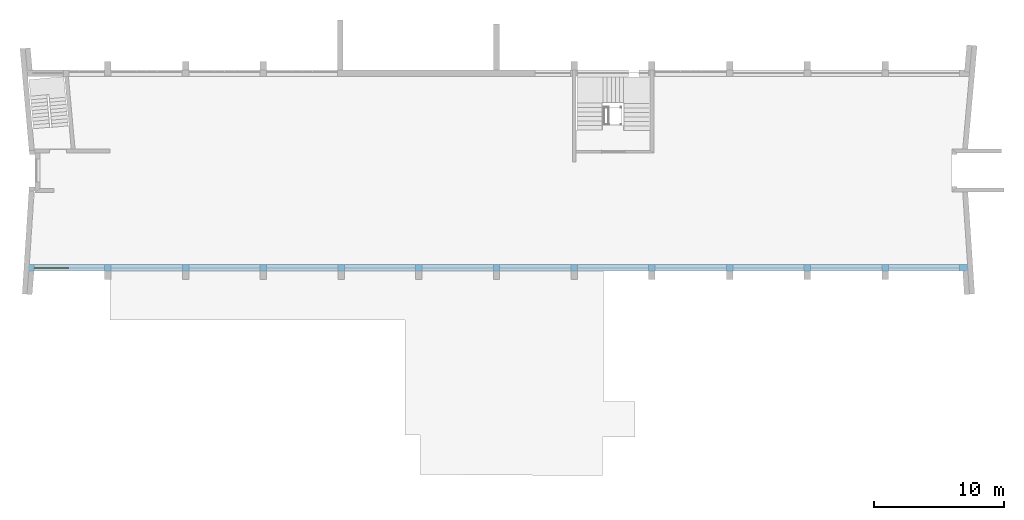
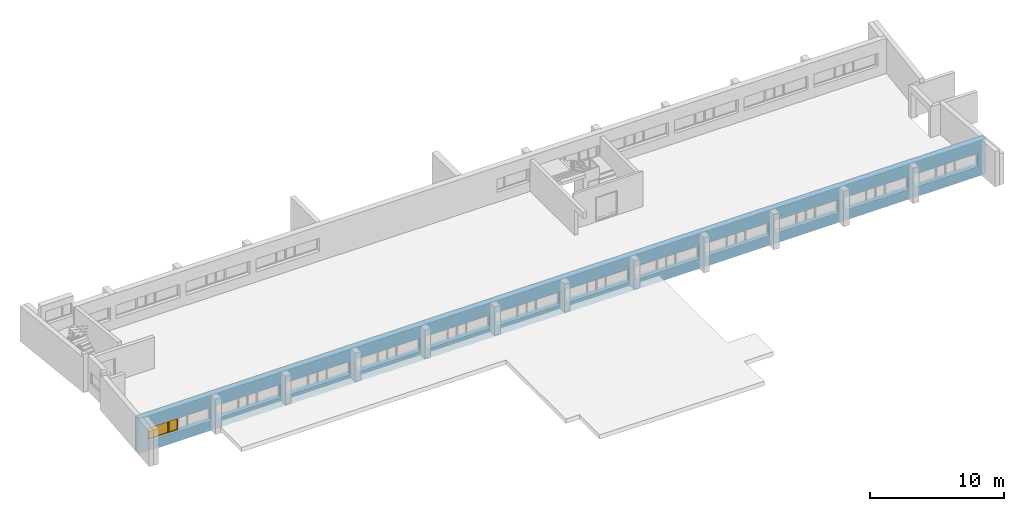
# One storey, part 7 of 10: 1 window, 24 openings, plus 1 element that does not belong to this part.
"""IFC2X3 building model written with IfcOpenShell, lengths in millimetres."""

from ifc_helpers import new_model, entity, si_unit, converted_unit, money_unit, direction, frame, origin_with_axes, place, context, subcontext, project, spatial, polyline, outline, extrude, open_shell, faceted_brep, surface_model, material, material_list, layer, layer_set, layer_usage, type_object, element, fill, save


model = new_model("IFC2X3")

# Units and contexts
model_context = context("Model", 3, precision=1e-05, world=origin_with_axes(), true_north=direction((0.0, 1.0)))
body_context = subcontext(model_context, "Body", "Model", "MODEL_VIEW")
ifc_project = project(units=[si_unit("LENGTHUNIT", "METRE", prefix="MILLI"), si_unit("AREAUNIT", "SQUARE_METRE"), si_unit("VOLUMEUNIT", "CUBIC_METRE"), converted_unit("PLANEANGLEUNIT", "DEGREE", entity("IfcPlaneAngleMeasure", 0.0174532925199), si_unit("PLANEANGLEUNIT", "RADIAN"), dimensions=[0, 0, 0, 0, 0, 0, 0]), si_unit("SOLIDANGLEUNIT", "STERADIAN"), money_unit("USD"), converted_unit("TIMEUNIT", "Year", entity("IfcTimeMeasure", 31556926.0), si_unit("TIMEUNIT", "SECOND"), dimensions=[0, 0, 0, 0, 0, 0, 0]), si_unit("MASSUNIT", "GRAM"), si_unit("THERMODYNAMICTEMPERATUREUNIT", "DEGREE_CELSIUS"), si_unit("LUMINOUSINTENSITYUNIT", "LUMEN")], contexts=[model_context])

# Site, building, storey
site_placement = place(None, origin_with_axes())
site = spatial("IfcSite", under=ifc_project, at=site_placement, Name="Site", CompositionType="ELEMENT")
building_placement = place(site_placement, origin_with_axes())
building = spatial("IfcBuilding", under=site, at=building_placement, Name="Building", CompositionType="ELEMENT")
storey_placement = place(building_placement, origin_with_axes())
storey = spatial("IfcBuildingStorey", under=building, at=storey_placement, Name="2KORRUS", CompositionType="ELEMENT", Elevation=0.0)

# Wall, openings, window
ifc_material_1 = material(Name="Olemasolevad seinad tellis, uus viimistlus")
ifc_layer = layer(ifc_material_1, 500.0, ventilated="UNKNOWN")
ifc_layer_set = layer_set([ifc_layer], Name="Olemasolevad seinad tellis, uus viimistlus 500")
ifc_layer_usage = layer_usage(ifc_layer_set, "AXIS2", "POSITIVE", -400.0)
wall_type = type_object("IfcWallType", Name="Olemasolevad seinad tellis, uus viimistlus 500", PredefinedType="NOTDEFINED")
wall_placement = place(storey_placement, frame((-54605.6435345, -19739.2398994, 0.0), z_axis=(0.0, 0.0, 1.0), x_axis=(1.0, 0.0, 0.0)))
wall = element("IfcWallStandardCase", 1, at=wall_placement, inside=storey, type_object=wall_type, material=ifc_layer_usage, Name="VS1", ObjectType="VS1", context=body_context, shape_type="SweptSolid", body=[
    extrude(outline(polyline([(0.0, -400.0), (72856.41019, -400.0), (72823.1601874, 100.0), (0.0, 100.0), (0.0, -400.0)])), origin_with_axes(), (0.0, 0.0, 1.0), 3200.0),
])
opening_1_placement = place(wall_placement, frame((2118.76079194, 0.0, 900.0), z_axis=(0.0, 0.0, 1.0), x_axis=(1.0, 0.0, 0.0)))
opening_1 = element("IfcOpeningElement", 2, at=opening_1_placement, cuts=wall, Name="A1", context=body_context, shape_type="SweptSolid", body=[
    extrude(outline(polyline([(1346.586, 1200.0), (-1346.586, 1200.0), (-1346.586, 0.0), (1346.586, 0.0), (1346.586, 1200.0)])), frame((0.0, -200.0, 0.0), z_axis=(0.0, 1.0, 0.0), x_axis=(-1.0, 0.0, 0.0)), (0.0, 0.0, 1.0), 800.0),
    extrude(outline(polyline([(1346.586, 0.0), (-1346.586, 0.0), (-1346.586, -1200.0), (1346.586, -1200.0), (1346.586, 0.0)])), frame((0.0, -200.0, 0.0), z_axis=(0.0, -1.0, 0.0), x_axis=(-1.0, 0.0, 0.0)), (0.0, 0.0, 1.0), 700.0),
])
opening_2_placement = place(wall_placement, frame((4840.34683118, 0.0, 900.0), z_axis=(0.0, 0.0, 1.0), x_axis=(1.0, 0.0, 0.0)))
element("IfcOpeningElement", 3, at=opening_2_placement, cuts=wall, Name="A2", context=body_context, shape_type="SweptSolid", body=[
    extrude(outline(polyline([(-1375.0, 1200.0), (-1375.0, 0.0), (1375.0, 0.0), (1375.0, 1200.0), (-1375.0, 1200.0)])), frame((0.0, -200.0, 0.0), z_axis=(0.0, 1.0, 0.0), x_axis=(-1.0, 0.0, 0.0)), (0.0, 0.0, 1.0), 800.0),
    extrude(outline(polyline([(-1375.0, 0.0), (-1375.0, -1200.0), (1375.0, -1200.0), (1375.0, 0.0), (-1375.0, 0.0)])), frame((0.0, -200.0, 0.0), z_axis=(0.0, -1.0, 0.0), x_axis=(-1.0, 0.0, 0.0)), (0.0, 0.0, 1.0), 700.0),
])
opening_3_placement = place(wall_placement, frame((8090.34683118, 0.0, 900.0), z_axis=(0.0, 0.0, 1.0), x_axis=(1.0, 0.0, 0.0)))
element("IfcOpeningElement", 4, at=opening_3_placement, cuts=wall, Name="A1", context=body_context, shape_type="SweptSolid", body=[
    extrude(outline(polyline([(1375.0, 1200.0), (-1375.0, 1200.0), (-1375.0, 0.0), (1375.0, 0.0), (1375.0, 1200.0)])), frame((0.0, -200.0, 0.0), z_axis=(0.0, 1.0, 0.0), x_axis=(-1.0, 0.0, 0.0)), (0.0, 0.0, 1.0), 800.0),
    extrude(outline(polyline([(1375.0, 0.0), (-1375.0, 0.0), (-1375.0, -1200.0), (1375.0, -1200.0), (1375.0, 0.0)])), frame((0.0, -200.0, 0.0), z_axis=(0.0, -1.0, 0.0), x_axis=(-1.0, 0.0, 0.0)), (0.0, 0.0, 1.0), 700.0),
])
opening_4_placement = place(wall_placement, frame((10840.3468312, 0.0, 900.0), z_axis=(0.0, 0.0, 1.0), x_axis=(1.0, 0.0, 0.0)))
element("IfcOpeningElement", 5, at=opening_4_placement, cuts=wall, Name="A2", context=body_context, shape_type="SweptSolid", body=[
    extrude(outline(polyline([(-1375.0, 1200.0), (-1375.0, 0.0), (1375.0, 0.0), (1375.0, 1200.0), (-1375.0, 1200.0)])), frame((0.0, -200.0, 0.0), z_axis=(0.0, 1.0, 0.0), x_axis=(-1.0, 0.0, 0.0)), (0.0, 0.0, 1.0), 800.0),
    extrude(outline(polyline([(-1375.0, 0.0), (-1375.0, -1200.0), (1375.0, -1200.0), (1375.0, 0.0), (-1375.0, 0.0)])), frame((0.0, -200.0, 0.0), z_axis=(0.0, -1.0, 0.0), x_axis=(-1.0, 0.0, 0.0)), (0.0, 0.0, 1.0), 700.0),
])
opening_5_placement = place(wall_placement, frame((14090.3468312, 0.0, 900.0), z_axis=(0.0, 0.0, 1.0), x_axis=(1.0, 0.0, 0.0)))
element("IfcOpeningElement", 6, at=opening_5_placement, cuts=wall, Name="A1", context=body_context, shape_type="SweptSolid", body=[
    extrude(outline(polyline([(1375.0, 1200.0), (-1375.0, 1200.0), (-1375.0, 0.0), (1375.0, 0.0), (1375.0, 1200.0)])), frame((0.0, -200.0, 0.0), z_axis=(0.0, 1.0, 0.0), x_axis=(-1.0, 0.0, 0.0)), (0.0, 0.0, 1.0), 800.0),
    extrude(outline(polyline([(1375.0, 0.0), (-1375.0, 0.0), (-1375.0, -1200.0), (1375.0, -1200.0), (1375.0, 0.0)])), frame((0.0, -200.0, 0.0), z_axis=(0.0, -1.0, 0.0), x_axis=(-1.0, 0.0, 0.0)), (0.0, 0.0, 1.0), 700.0),
])
opening_6_placement = place(wall_placement, frame((16840.3468312, 0.0, 900.0), z_axis=(0.0, 0.0, 1.0), x_axis=(1.0, 0.0, 0.0)))
element("IfcOpeningElement", 7, at=opening_6_placement, cuts=wall, Name="A2", context=body_context, shape_type="SweptSolid", body=[
    extrude(outline(polyline([(-1375.0, 1200.0), (-1375.0, 0.0), (1375.0, 0.0), (1375.0, 1200.0), (-1375.0, 1200.0)])), frame((0.0, -200.0, 0.0), z_axis=(0.0, 1.0, 0.0), x_axis=(-1.0, 0.0, 0.0)), (0.0, 0.0, 1.0), 800.0),
    extrude(outline(polyline([(-1375.0, 0.0), (-1375.0, -1200.0), (1375.0, -1200.0), (1375.0, 0.0), (-1375.0, 0.0)])), frame((0.0, -200.0, 0.0), z_axis=(0.0, -1.0, 0.0), x_axis=(-1.0, 0.0, 0.0)), (0.0, 0.0, 1.0), 700.0),
])
opening_7_placement = place(wall_placement, frame((20090.3468312, 0.0, 900.0), z_axis=(0.0, 0.0, 1.0), x_axis=(1.0, 0.0, 0.0)))
element("IfcOpeningElement", 8, at=opening_7_placement, cuts=wall, Name="A1", context=body_context, shape_type="SweptSolid", body=[
    extrude(outline(polyline([(1375.0, 1200.0), (-1375.0, 1200.0), (-1375.0, 0.0), (1375.0, 0.0), (1375.0, 1200.0)])), frame((0.0, -200.0, 0.0), z_axis=(0.0, 1.0, 0.0), x_axis=(-1.0, 0.0, 0.0)), (0.0, 0.0, 1.0), 800.0),
    extrude(outline(polyline([(1375.0, 0.0), (-1375.0, 0.0), (-1375.0, -1200.0), (1375.0, -1200.0), (1375.0, 0.0)])), frame((0.0, -200.0, 0.0), z_axis=(0.0, -1.0, 0.0), x_axis=(-1.0, 0.0, 0.0)), (0.0, 0.0, 1.0), 700.0),
])
opening_8_placement = place(wall_placement, frame((22840.3468312, 0.0, 900.0), z_axis=(0.0, 0.0, 1.0), x_axis=(1.0, 0.0, 0.0)))
element("IfcOpeningElement", 9, at=opening_8_placement, cuts=wall, Name="A2", context=body_context, shape_type="SweptSolid", body=[
    extrude(outline(polyline([(-1375.0, 1200.0), (-1375.0, 0.0), (1375.0, 0.0), (1375.0, 1200.0), (-1375.0, 1200.0)])), frame((0.0, -200.0, 0.0), z_axis=(0.0, 1.0, 0.0), x_axis=(-1.0, 0.0, 0.0)), (0.0, 0.0, 1.0), 800.0),
    extrude(outline(polyline([(-1375.0, 0.0), (-1375.0, -1200.0), (1375.0, -1200.0), (1375.0, 0.0), (-1375.0, 0.0)])), frame((0.0, -200.0, 0.0), z_axis=(0.0, -1.0, 0.0), x_axis=(-1.0, 0.0, 0.0)), (0.0, 0.0, 1.0), 700.0),
])
opening_9_placement = place(wall_placement, frame((26090.3468312, 0.0, 900.0), z_axis=(0.0, 0.0, 1.0), x_axis=(1.0, 0.0, 0.0)))
element("IfcOpeningElement", 10, at=opening_9_placement, cuts=wall, Name="A1", context=body_context, shape_type="SweptSolid", body=[
    extrude(outline(polyline([(1375.0, 1200.0), (-1375.0, 1200.0), (-1375.0, 0.0), (1375.0, 0.0), (1375.0, 1200.0)])), frame((0.0, -200.0, 0.0), z_axis=(0.0, 1.0, 0.0), x_axis=(-1.0, 0.0, 0.0)), (0.0, 0.0, 1.0), 800.0),
    extrude(outline(polyline([(1375.0, 0.0), (-1375.0, 0.0), (-1375.0, -1200.0), (1375.0, -1200.0), (1375.0, 0.0)])), frame((0.0, -200.0, 0.0), z_axis=(0.0, -1.0, 0.0), x_axis=(-1.0, 0.0, 0.0)), (0.0, 0.0, 1.0), 700.0),
])
opening_10_placement = place(wall_placement, frame((28840.3468312, 0.0, 900.0), z_axis=(0.0, 0.0, 1.0), x_axis=(1.0, 0.0, 0.0)))
element("IfcOpeningElement", 11, at=opening_10_placement, cuts=wall, Name="A2", context=body_context, shape_type="SweptSolid", body=[
    extrude(outline(polyline([(-1375.0, 1200.0), (-1375.0, 0.0), (1375.0, 0.0), (1375.0, 1200.0), (-1375.0, 1200.0)])), frame((0.0, -200.0, 0.0), z_axis=(0.0, 1.0, 0.0), x_axis=(-1.0, 0.0, 0.0)), (0.0, 0.0, 1.0), 800.0),
    extrude(outline(polyline([(-1375.0, 0.0), (-1375.0, -1200.0), (1375.0, -1200.0), (1375.0, 0.0), (-1375.0, 0.0)])), frame((0.0, -200.0, 0.0), z_axis=(0.0, -1.0, 0.0), x_axis=(-1.0, 0.0, 0.0)), (0.0, 0.0, 1.0), 700.0),
])
opening_11_placement = place(wall_placement, frame((32090.3468312, 0.0, 900.0), z_axis=(0.0, 0.0, 1.0), x_axis=(1.0, 0.0, 0.0)))
element("IfcOpeningElement", 12, at=opening_11_placement, cuts=wall, Name="A1", context=body_context, shape_type="SweptSolid", body=[
    extrude(outline(polyline([(1375.0, 1200.0), (-1375.0, 1200.0), (-1375.0, 0.0), (1375.0, 0.0), (1375.0, 1200.0)])), frame((0.0, -200.0, 0.0), z_axis=(0.0, 1.0, 0.0), x_axis=(-1.0, 0.0, 0.0)), (0.0, 0.0, 1.0), 800.0),
    extrude(outline(polyline([(1375.0, 0.0), (-1375.0, 0.0), (-1375.0, -1200.0), (1375.0, -1200.0), (1375.0, 0.0)])), frame((0.0, -200.0, 0.0), z_axis=(0.0, -1.0, 0.0), x_axis=(-1.0, 0.0, 0.0)), (0.0, 0.0, 1.0), 700.0),
])
opening_12_placement = place(wall_placement, frame((34840.3468312, 0.0, 900.0), z_axis=(0.0, 0.0, 1.0), x_axis=(1.0, 0.0, 0.0)))
element("IfcOpeningElement", 13, at=opening_12_placement, cuts=wall, Name="A2", context=body_context, shape_type="SweptSolid", body=[
    extrude(outline(polyline([(-1375.0, 1200.0), (-1375.0, 0.0), (1375.0, 0.0), (1375.0, 1200.0), (-1375.0, 1200.0)])), frame((0.0, -200.0, 0.0), z_axis=(0.0, 1.0, 0.0), x_axis=(-1.0, 0.0, 0.0)), (0.0, 0.0, 1.0), 800.0),
    extrude(outline(polyline([(-1375.0, 0.0), (-1375.0, -1200.0), (1375.0, -1200.0), (1375.0, 0.0), (-1375.0, 0.0)])), frame((0.0, -200.0, 0.0), z_axis=(0.0, -1.0, 0.0), x_axis=(-1.0, 0.0, 0.0)), (0.0, 0.0, 1.0), 700.0),
])
opening_13_placement = place(wall_placement, frame((38090.3468312, 0.0, 900.0), z_axis=(0.0, 0.0, 1.0), x_axis=(1.0, 0.0, 0.0)))
element("IfcOpeningElement", 14, at=opening_13_placement, cuts=wall, Name="A1", context=body_context, shape_type="SweptSolid", body=[
    extrude(outline(polyline([(1375.0, 1200.0), (-1375.0, 1200.0), (-1375.0, 0.0), (1375.0, 0.0), (1375.0, 1200.0)])), frame((0.0, -200.0, 0.0), z_axis=(0.0, 1.0, 0.0), x_axis=(-1.0, 0.0, 0.0)), (0.0, 0.0, 1.0), 800.0),
    extrude(outline(polyline([(1375.0, 0.0), (-1375.0, 0.0), (-1375.0, -1200.0), (1375.0, -1200.0), (1375.0, 0.0)])), frame((0.0, -200.0, 0.0), z_axis=(0.0, -1.0, 0.0), x_axis=(-1.0, 0.0, 0.0)), (0.0, 0.0, 1.0), 700.0),
])
opening_14_placement = place(wall_placement, frame((40840.3468312, 0.0, 900.0), z_axis=(0.0, 0.0, 1.0), x_axis=(1.0, 0.0, 0.0)))
element("IfcOpeningElement", 15, at=opening_14_placement, cuts=wall, Name="A2", context=body_context, shape_type="SweptSolid", body=[
    extrude(outline(polyline([(-1375.0, 1200.0), (-1375.0, 0.0), (1375.0, 0.0), (1375.0, 1200.0), (-1375.0, 1200.0)])), frame((0.0, -200.0, 0.0), z_axis=(0.0, 1.0, 0.0), x_axis=(-1.0, 0.0, 0.0)), (0.0, 0.0, 1.0), 800.0),
    extrude(outline(polyline([(-1375.0, 0.0), (-1375.0, -1200.0), (1375.0, -1200.0), (1375.0, 0.0), (-1375.0, 0.0)])), frame((0.0, -200.0, 0.0), z_axis=(0.0, -1.0, 0.0), x_axis=(-1.0, 0.0, 0.0)), (0.0, 0.0, 1.0), 700.0),
])
opening_15_placement = place(wall_placement, frame((44090.3468312, 0.0, 900.0), z_axis=(0.0, 0.0, 1.0), x_axis=(1.0, 0.0, 0.0)))
element("IfcOpeningElement", 16, at=opening_15_placement, cuts=wall, Name="A1", context=body_context, shape_type="SweptSolid", body=[
    extrude(outline(polyline([(1375.0, 1200.0), (-1375.0, 1200.0), (-1375.0, 0.0), (1375.0, 0.0), (1375.0, 1200.0)])), frame((0.0, -200.0, 0.0), z_axis=(0.0, 1.0, 0.0), x_axis=(-1.0, 0.0, 0.0)), (0.0, 0.0, 1.0), 800.0),
    extrude(outline(polyline([(1375.0, 0.0), (-1375.0, 0.0), (-1375.0, -1200.0), (1375.0, -1200.0), (1375.0, 0.0)])), frame((0.0, -200.0, 0.0), z_axis=(0.0, -1.0, 0.0), x_axis=(-1.0, 0.0, 0.0)), (0.0, 0.0, 1.0), 700.0),
])
opening_16_placement = place(wall_placement, frame((46840.3468312, 0.0, 900.0), z_axis=(0.0, 0.0, 1.0), x_axis=(1.0, 0.0, 0.0)))
element("IfcOpeningElement", 17, at=opening_16_placement, cuts=wall, Name="A2", context=body_context, shape_type="SweptSolid", body=[
    extrude(outline(polyline([(-1375.0, 1200.0), (-1375.0, 0.0), (1375.0, 0.0), (1375.0, 1200.0), (-1375.0, 1200.0)])), frame((0.0, -200.0, 0.0), z_axis=(0.0, 1.0, 0.0), x_axis=(-1.0, 0.0, 0.0)), (0.0, 0.0, 1.0), 800.0),
    extrude(outline(polyline([(-1375.0, 0.0), (-1375.0, -1200.0), (1375.0, -1200.0), (1375.0, 0.0), (-1375.0, 0.0)])), frame((0.0, -200.0, 0.0), z_axis=(0.0, -1.0, 0.0), x_axis=(-1.0, 0.0, 0.0)), (0.0, 0.0, 1.0), 700.0),
])
opening_17_placement = place(wall_placement, frame((50090.3468312, 0.0, 900.0), z_axis=(0.0, 0.0, 1.0), x_axis=(1.0, 0.0, 0.0)))
element("IfcOpeningElement", 18, at=opening_17_placement, cuts=wall, Name="A1", context=body_context, shape_type="SweptSolid", body=[
    extrude(outline(polyline([(1375.0, 1200.0), (-1375.0, 1200.0), (-1375.0, 0.0), (1375.0, 0.0), (1375.0, 1200.0)])), frame((0.0, -200.0, 0.0), z_axis=(0.0, 1.0, 0.0), x_axis=(-1.0, 0.0, 0.0)), (0.0, 0.0, 1.0), 800.0),
    extrude(outline(polyline([(1375.0, 0.0), (-1375.0, 0.0), (-1375.0, -1200.0), (1375.0, -1200.0), (1375.0, 0.0)])), frame((0.0, -200.0, 0.0), z_axis=(0.0, -1.0, 0.0), x_axis=(-1.0, 0.0, 0.0)), (0.0, 0.0, 1.0), 700.0),
])
opening_18_placement = place(wall_placement, frame((52840.3468312, 0.0, 900.0), z_axis=(0.0, 0.0, 1.0), x_axis=(1.0, 0.0, 0.0)))
element("IfcOpeningElement", 19, at=opening_18_placement, cuts=wall, Name="A2", context=body_context, shape_type="SweptSolid", body=[
    extrude(outline(polyline([(-1375.0, 1200.0), (-1375.0, 0.0), (1375.0, 0.0), (1375.0, 1200.0), (-1375.0, 1200.0)])), frame((0.0, -200.0, 0.0), z_axis=(0.0, 1.0, 0.0), x_axis=(-1.0, 0.0, 0.0)), (0.0, 0.0, 1.0), 800.0),
    extrude(outline(polyline([(-1375.0, 0.0), (-1375.0, -1200.0), (1375.0, -1200.0), (1375.0, 0.0), (-1375.0, 0.0)])), frame((0.0, -200.0, 0.0), z_axis=(0.0, -1.0, 0.0), x_axis=(-1.0, 0.0, 0.0)), (0.0, 0.0, 1.0), 700.0),
])
opening_19_placement = place(wall_placement, frame((56090.3468312, 0.0, 900.0), z_axis=(0.0, 0.0, 1.0), x_axis=(1.0, 0.0, 0.0)))
element("IfcOpeningElement", 20, at=opening_19_placement, cuts=wall, Name="A1", context=body_context, shape_type="SweptSolid", body=[
    extrude(outline(polyline([(1375.0, 1200.0), (-1375.0, 1200.0), (-1375.0, 0.0), (1375.0, 0.0), (1375.0, 1200.0)])), frame((0.0, -200.0, 0.0), z_axis=(0.0, 1.0, 0.0), x_axis=(-1.0, 0.0, 0.0)), (0.0, 0.0, 1.0), 800.0),
    extrude(outline(polyline([(1375.0, 0.0), (-1375.0, 0.0), (-1375.0, -1200.0), (1375.0, -1200.0), (1375.0, 0.0)])), frame((0.0, -200.0, 0.0), z_axis=(0.0, -1.0, 0.0), x_axis=(-1.0, 0.0, 0.0)), (0.0, 0.0, 1.0), 700.0),
])
opening_20_placement = place(wall_placement, frame((58840.3468312, 0.0, 900.0), z_axis=(0.0, 0.0, 1.0), x_axis=(1.0, 0.0, 0.0)))
element("IfcOpeningElement", 21, at=opening_20_placement, cuts=wall, Name="A2", context=body_context, shape_type="SweptSolid", body=[
    extrude(outline(polyline([(-1375.0, 1200.0), (-1375.0, 0.0), (1375.0, 0.0), (1375.0, 1200.0), (-1375.0, 1200.0)])), frame((0.0, -200.0, 0.0), z_axis=(0.0, 1.0, 0.0), x_axis=(-1.0, 0.0, 0.0)), (0.0, 0.0, 1.0), 800.0),
    extrude(outline(polyline([(-1375.0, 0.0), (-1375.0, -1200.0), (1375.0, -1200.0), (1375.0, 0.0), (-1375.0, 0.0)])), frame((0.0, -200.0, 0.0), z_axis=(0.0, -1.0, 0.0), x_axis=(-1.0, 0.0, 0.0)), (0.0, 0.0, 1.0), 700.0),
])
opening_21_placement = place(wall_placement, frame((62091.3616729, 0.0, 900.0), z_axis=(0.0, 0.0, 1.0), x_axis=(1.0, 0.0, 0.0)))
element("IfcOpeningElement", 22, at=opening_21_placement, cuts=wall, Name="A1", context=body_context, shape_type="SweptSolid", body=[
    extrude(outline(polyline([(1375.0, 1200.0), (-1375.0, 1200.0), (-1375.0, 0.0), (1375.0, 0.0), (1375.0, 1200.0)])), frame((0.0, -200.0, 0.0), z_axis=(0.0, 1.0, 0.0), x_axis=(-1.0, 0.0, 0.0)), (0.0, 0.0, 1.0), 800.0),
    extrude(outline(polyline([(1375.0, 0.0), (-1375.0, 0.0), (-1375.0, -1200.0), (1375.0, -1200.0), (1375.0, 0.0)])), frame((0.0, -200.0, 0.0), z_axis=(0.0, -1.0, 0.0), x_axis=(-1.0, 0.0, 0.0)), (0.0, 0.0, 1.0), 700.0),
])
opening_22_placement = place(wall_placement, frame((64840.3468312, 0.0, 900.0), z_axis=(0.0, 0.0, 1.0), x_axis=(1.0, 0.0, 0.0)))
element("IfcOpeningElement", 23, at=opening_22_placement, cuts=wall, Name="A2", context=body_context, shape_type="SweptSolid", body=[
    extrude(outline(polyline([(-1375.0, 1200.0), (-1375.0, 0.0), (1375.0, 0.0), (1375.0, 1200.0), (-1375.0, 1200.0)])), frame((0.0, -200.0, 0.0), z_axis=(0.0, 1.0, 0.0), x_axis=(-1.0, 0.0, 0.0)), (0.0, 0.0, 1.0), 800.0),
    extrude(outline(polyline([(-1375.0, 0.0), (-1375.0, -1200.0), (1375.0, -1200.0), (1375.0, 0.0), (-1375.0, 0.0)])), frame((0.0, -200.0, 0.0), z_axis=(0.0, -1.0, 0.0), x_axis=(-1.0, 0.0, 0.0)), (0.0, 0.0, 1.0), 700.0),
])
opening_23_placement = place(wall_placement, frame((68090.3468312, 0.0, 900.0), z_axis=(0.0, 0.0, 1.0), x_axis=(1.0, 0.0, 0.0)))
element("IfcOpeningElement", 24, at=opening_23_placement, cuts=wall, Name="A1", context=body_context, shape_type="SweptSolid", body=[
    extrude(outline(polyline([(1375.0, 1200.0), (-1375.0, 1200.0), (-1375.0, 0.0), (1375.0, 0.0), (1375.0, 1200.0)])), frame((0.0, -200.0, 0.0), z_axis=(0.0, 1.0, 0.0), x_axis=(-1.0, 0.0, 0.0)), (0.0, 0.0, 1.0), 800.0),
    extrude(outline(polyline([(1375.0, 0.0), (-1375.0, 0.0), (-1375.0, -1200.0), (1375.0, -1200.0), (1375.0, 0.0)])), frame((0.0, -200.0, 0.0), z_axis=(0.0, -1.0, 0.0), x_axis=(-1.0, 0.0, 0.0)), (0.0, 0.0, 1.0), 700.0),
])
opening_24_placement = place(wall_placement, frame((70840.3468312, 0.0, 900.0), z_axis=(0.0, 0.0, 1.0), x_axis=(1.0, 0.0, 0.0)))
element("IfcOpeningElement", 25, at=opening_24_placement, cuts=wall, Name="A2", context=body_context, shape_type="SweptSolid", body=[
    extrude(outline(polyline([(-1375.0, 1200.0), (-1375.0, 0.0), (1375.0, 0.0), (1375.0, 1200.0), (-1375.0, 1200.0)])), frame((0.0, -200.0, 0.0), z_axis=(0.0, 1.0, 0.0), x_axis=(-1.0, 0.0, 0.0)), (0.0, 0.0, 1.0), 800.0),
    extrude(outline(polyline([(-1375.0, 0.0), (-1375.0, -1200.0), (1375.0, -1200.0), (1375.0, 0.0), (-1375.0, 0.0)])), frame((0.0, -200.0, 0.0), z_axis=(0.0, -1.0, 0.0), x_axis=(-1.0, 0.0, 0.0)), (0.0, 0.0, 1.0), 700.0),
])
ifc_material_2 = material(Name="Background")
ifc_material_list = material_list([ifc_material_2])
window_style = type_object("IfcWindowStyle", Name="Double Window 19", ConstructionType="NOTDEFINED", OperationType="DOUBLE_PANEL_VERTICAL", ParameterTakesPrecedence=False, Sizeable=False)
window_placement = place(opening_1_placement, frame((1346.58603924, 0.0, 0.0), z_axis=(0.0, 0.0, 1.0), x_axis=(-1.0, 0.0, 0.0)))
window = element("IfcWindow", 26, at=window_placement, inside=storey, type_object=window_style, material=ifc_material_list, Name="A1", ObjectType="WINDOW", OverallHeight=1200.0, OverallWidth=2693.17, context=body_context, shape_type="SurfaceModel", body=[
    faceted_brep([(2668.172, 200.0, 1150.0), (2668.172, 175.0, 1150.0), (2643.172, 175.0, 1150.0), (2643.172, 150.0, 1150.0), (2693.172, 150.0, 1150.0), (2693.172, 200.0, 1150.0), (2668.172, 200.0, 50.0), (2668.172, 175.0, 50.0), (2643.172, 175.0, 50.0), (2643.172, 150.0, 50.0), (2693.172, 150.0, 50.0), (2693.172, 200.0, 50.0)], [[[0, 1, 2, 3, 4, 5]], [[1, 0, 6, 7]], [[8, 2, 1, 7]], [[2, 8, 9, 3]], [[4, 3, 9, 10]], [[5, 4, 10, 11]], [[6, 0, 5, 11]], [[7, 6, 11, 10, 9, 8]]]),
    faceted_brep([(50.0, 175.0, 1150.0), (25.0, 175.0, 1150.0), (25.0, 200.0, 1150.0), (0.0, 200.0, 1150.0), (0.0, 150.0, 1150.0), (50.0, 150.0, 1150.0), (50.0, 175.0, 50.0), (25.0, 175.0, 50.0), (25.0, 200.0, 50.0), (0.0, 200.0, 50.0), (0.0, 150.0, 50.0), (50.0, 150.0, 50.0)], [[[0, 1, 2, 3, 4, 5]], [[1, 0, 6, 7]], [[8, 2, 1, 7]], [[2, 8, 9, 3]], [[9, 10, 4, 3]], [[10, 11, 5, 4]], [[6, 0, 5, 11]], [[7, 6, 11, 10, 9, 8]]]),
    faceted_brep([(850.0, 175.0, 1150.0), (825.0, 175.0, 1150.0), (825.0, 200.0, 1150.0), (775.0, 200.0, 1150.0), (775.0, 175.0, 1150.0), (750.0, 175.0, 1150.0), (750.0, 150.0, 1150.0), (850.0, 150.0, 1150.0), (850.0, 175.0, 50.0), (825.0, 175.0, 50.0), (825.0, 200.0, 50.0), (775.0, 200.0, 50.0), (775.0, 175.0, 50.0), (750.0, 175.0, 50.0), (750.0, 150.0, 50.0), (850.0, 150.0, 50.0)], [[[0, 1, 2, 3, 4, 5, 6, 7]], [[1, 0, 8, 9]], [[10, 2, 1, 9]], [[2, 10, 11, 3]], [[4, 3, 11, 12]], [[13, 5, 4, 12]], [[5, 13, 14, 6]], [[14, 15, 7, 6]], [[8, 0, 7, 15]], [[9, 8, 15, 14, 13, 12, 11, 10]]]),
    faceted_brep([(850.0, 175.0, 50.0), (825.0, 175.0, 50.0), (825.0, 200.0, 50.0), (775.0, 200.0, 50.0), (775.0, 175.0, 50.0), (750.0, 175.0, 50.0), (750.0, 150.0, 50.0), (850.0, 150.0, 50.0), (2643.172, 175.0, 50.0), (2668.172, 175.0, 50.0), (2668.172, 175.0, 25.0), (825.0, 175.0, 25.0), (825.0, 200.0, 25.0), (2668.172, 200.0, 25.0), (2668.172, 200.0, 50.0), (2693.172, 200.0, 50.0), (2693.172, 200.0, 0.0), (0.0, 200.0, 0.0), (0.0, 200.0, 50.0), (25.0, 200.0, 50.0), (25.0, 200.0, 25.0), (775.0, 200.0, 25.0), (775.0, 175.0, 25.0), (25.0, 175.0, 50.0), (50.0, 175.0, 50.0), (25.0, 175.0, 25.0), (50.0, 150.0, 50.0), (2693.172, 150.0, 50.0), (2643.172, 150.0, 50.0), (0.0, 150.0, 50.0), (0.0, 150.0, 0.0), (2693.172, 150.0, 0.0)], [[[0, 1, 2, 3, 4, 5, 6, 7]], [[1, 0, 8, 9, 10, 11]], [[12, 2, 1, 11]], [[13, 14, 15, 16, 17, 18, 19, 20, 21, 3, 2, 12]], [[4, 3, 21, 22]], [[23, 24, 5, 4, 22, 25]], [[5, 24, 26, 6]], [[27, 28, 7, 6, 26, 29, 30, 31]], [[8, 0, 7, 28]], [[9, 8, 28, 27, 15, 14]], [[9, 14, 13, 10]], [[13, 12, 11, 10]], [[15, 27, 31, 16]], [[16, 31, 30, 17]], [[17, 30, 29, 18]], [[24, 23, 19, 18, 29, 26]], [[20, 19, 23, 25]], [[21, 20, 25, 22]]]),
    faceted_brep([(2668.172, 200.0, 1150.0), (2668.172, 200.0, 1175.0), (825.0, 200.0, 1175.0), (825.0, 200.0, 1150.0), (775.0, 200.0, 1150.0), (775.0, 200.0, 1175.0), (25.0, 200.0, 1175.0), (25.0, 200.0, 1150.0), (0.0, 200.0, 1150.0), (0.0, 200.0, 1200.0), (2693.172, 200.0, 1200.0), (2693.172, 200.0, 1150.0), (2668.172, 175.0, 1150.0), (2668.172, 175.0, 1175.0), (825.0, 175.0, 1175.0), (825.0, 175.0, 1150.0), (850.0, 175.0, 1150.0), (850.0, 150.0, 1150.0), (750.0, 150.0, 1150.0), (750.0, 175.0, 1150.0), (775.0, 175.0, 1150.0), (775.0, 175.0, 1175.0), (25.0, 175.0, 1175.0), (25.0, 175.0, 1150.0), (50.0, 175.0, 1150.0), (50.0, 150.0, 1150.0), (0.0, 150.0, 1150.0), (0.0, 150.0, 1200.0), (2693.172, 150.0, 1200.0), (2693.172, 150.0, 1150.0), (2643.172, 150.0, 1150.0), (2643.172, 175.0, 1150.0)], [[[0, 1, 2, 3, 4, 5, 6, 7, 8, 9, 10, 11]], [[1, 0, 12, 13]], [[2, 1, 13, 14]], [[3, 2, 14, 15]], [[15, 16, 17, 18, 19, 20, 4, 3]], [[5, 4, 20, 21]], [[6, 5, 21, 22]], [[7, 6, 22, 23]], [[23, 24, 25, 26, 8, 7]], [[8, 26, 27, 9]], [[9, 27, 28, 10]], [[10, 28, 29, 11]], [[12, 0, 11, 29, 30, 31]], [[16, 15, 14, 13, 12, 31]], [[16, 31, 30, 17]], [[18, 17, 30, 29, 28, 27, 26, 25]], [[24, 19, 18, 25]], [[24, 23, 22, 21, 20, 19]]]),
    faceted_brep([(2618.172, 175.0, 1125.0), (2668.172, 175.0, 1125.0), (2668.172, 225.0, 1125.0), (2618.172, 225.0, 1125.0), (2618.172, 175.0, 75.0), (2668.172, 175.0, 75.0), (2668.172, 225.0, 75.0), (2618.172, 225.0, 75.0)], [[[0, 1, 2, 3]], [[0, 4, 5, 1]], [[1, 5, 6, 2]], [[3, 2, 6, 7]], [[4, 0, 3, 7]], [[5, 4, 7, 6]]]),
    faceted_brep([(875.0, 175.0, 75.0), (825.0, 175.0, 75.0), (825.0, 225.0, 75.0), (875.0, 225.0, 75.0), (875.0, 175.0, 1125.0), (825.0, 175.0, 1125.0), (825.0, 225.0, 1125.0), (875.0, 225.0, 1125.0)], [[[0, 1, 2, 3]], [[0, 4, 5, 1]], [[1, 5, 6, 2]], [[3, 2, 6, 7]], [[4, 0, 3, 7]], [[5, 4, 7, 6]]]),
    faceted_brep([(825.0, 175.0, 25.0), (825.0, 175.0, 75.0), (825.0, 225.0, 75.0), (825.0, 225.0, 25.0), (2668.172, 175.0, 25.0), (2668.172, 175.0, 75.0), (2618.172, 175.0, 75.0), (875.0, 175.0, 75.0), (875.0, 225.0, 75.0), (2618.172, 225.0, 75.0), (2668.172, 225.0, 75.0), (2668.172, 225.0, 25.0)], [[[0, 1, 2, 3]], [[0, 4, 5, 6, 7, 1]], [[1, 7, 8, 2]], [[3, 2, 8, 9, 10, 11]], [[4, 0, 3, 11]], [[5, 4, 11, 10]], [[6, 5, 10, 9]], [[7, 6, 9, 8]]]),
    faceted_brep([(2668.172, 175.0, 1175.0), (2668.172, 175.0, 1125.0), (2668.172, 225.0, 1125.0), (2668.172, 225.0, 1175.0), (825.0, 175.0, 1175.0), (825.0, 175.0, 1125.0), (875.0, 175.0, 1125.0), (2618.172, 175.0, 1125.0), (2618.172, 225.0, 1125.0), (875.0, 225.0, 1125.0), (825.0, 225.0, 1125.0), (825.0, 225.0, 1175.0)], [[[0, 1, 2, 3]], [[0, 4, 5, 6, 7, 1]], [[1, 7, 8, 2]], [[3, 2, 8, 9, 10, 11]], [[4, 0, 3, 11]], [[5, 4, 11, 10]], [[6, 5, 10, 9]], [[7, 6, 9, 8]]]),
    surface_model("IfcShellBasedSurfaceModel", [(2618.172, 190.0, 75.0), (2618.172, 190.0, 1125.0), (875.0, 190.0, 1125.0), (875.0, 190.0, 75.0)], [open_shell([[[0, 1, 2, 3]]])]),
    surface_model("IfcShellBasedSurfaceModel", [(2618.172, 210.0, 75.0), (875.0, 210.0, 75.0), (875.0, 210.0, 1125.0), (2618.172, 210.0, 1125.0)], [open_shell([[[0, 1, 2, 3]]])]),
    faceted_brep([(725.0, 175.0, 1125.0), (775.0, 175.0, 1125.0), (775.0, 225.0, 1125.0), (725.0, 225.0, 1125.0), (725.0, 175.0, 75.0), (775.0, 175.0, 75.0), (775.0, 225.0, 75.0), (725.0, 225.0, 75.0)], [[[0, 1, 2, 3]], [[0, 4, 5, 1]], [[1, 5, 6, 2]], [[3, 2, 6, 7]], [[4, 0, 3, 7]], [[5, 4, 7, 6]]]),
    faceted_brep([(75.0, 175.0, 75.0), (25.0, 175.0, 75.0), (25.0, 225.0, 75.0), (75.0, 225.0, 75.0), (75.0, 175.0, 1125.0), (25.0, 175.0, 1125.0), (25.0, 225.0, 1125.0), (75.0, 225.0, 1125.0)], [[[0, 1, 2, 3]], [[0, 4, 5, 1]], [[1, 5, 6, 2]], [[3, 2, 6, 7]], [[4, 0, 3, 7]], [[5, 4, 7, 6]]]),
    faceted_brep([(25.0, 175.0, 25.0), (25.0, 175.0, 75.0), (25.0, 225.0, 75.0), (25.0, 225.0, 25.0), (775.0, 175.0, 25.0), (775.0, 175.0, 75.0), (725.0, 175.0, 75.0), (75.0, 175.0, 75.0), (75.0, 225.0, 75.0), (725.0, 225.0, 75.0), (775.0, 225.0, 75.0), (775.0, 225.0, 25.0)], [[[0, 1, 2, 3]], [[0, 4, 5, 6, 7, 1]], [[1, 7, 8, 2]], [[3, 2, 8, 9, 10, 11]], [[4, 0, 3, 11]], [[5, 4, 11, 10]], [[6, 5, 10, 9]], [[7, 6, 9, 8]]]),
    faceted_brep([(775.0, 175.0, 1175.0), (775.0, 175.0, 1125.0), (775.0, 225.0, 1125.0), (775.0, 225.0, 1175.0), (25.0, 175.0, 1175.0), (25.0, 175.0, 1125.0), (75.0, 175.0, 1125.0), (725.0, 175.0, 1125.0), (725.0, 225.0, 1125.0), (75.0, 225.0, 1125.0), (25.0, 225.0, 1125.0), (25.0, 225.0, 1175.0)], [[[0, 1, 2, 3]], [[0, 4, 5, 6, 7, 1]], [[1, 7, 8, 2]], [[3, 2, 8, 9, 10, 11]], [[4, 0, 3, 11]], [[5, 4, 11, 10]], [[6, 5, 10, 9]], [[7, 6, 9, 8]]]),
    surface_model("IfcShellBasedSurfaceModel", [(725.0, 190.0, 75.0), (725.0, 190.0, 1125.0), (75.0, 190.0, 1125.0), (75.0, 190.0, 75.0)], [open_shell([[[0, 1, 2, 3]]])]),
    surface_model("IfcShellBasedSurfaceModel", [(725.0, 210.0, 75.0), (75.0, 210.0, 75.0), (75.0, 210.0, 1125.0), (725.0, 210.0, 1125.0)], [open_shell([[[0, 1, 2, 3]]])]),
])
fill(opening_1, window)

save(model, "model.ifc")
